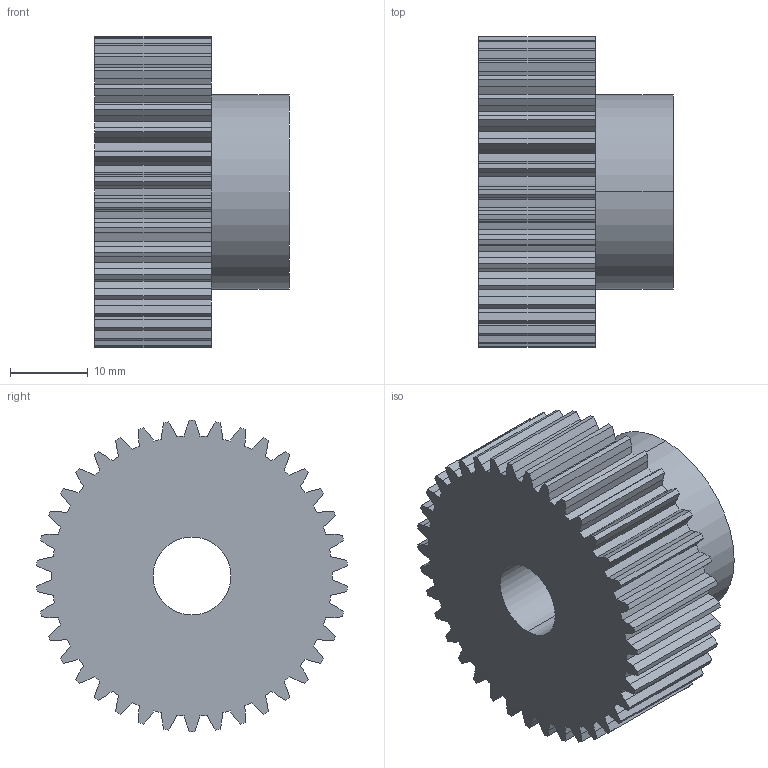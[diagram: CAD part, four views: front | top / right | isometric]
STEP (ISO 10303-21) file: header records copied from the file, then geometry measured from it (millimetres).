
FILE_DESCRIPTION (( 'STEP AP203' ), '1' );
FILE_NAME ('PM 26038.STEP', '2013-09-23T12:44:37', ( '' ), ( '' ), 'SwSTEP 2.0', 'SolidWorks 2010', '' );
FILE_SCHEMA (( 'CONFIG_CONTROL_DESIGN' ));
Length unit declared in the file: millimetre
Products named in the file (1): PM 26038
Bounding box: 25 x 39.91 x 40 mm (x, y, z)
Volume: 19783.6 mm3; surface area: 7034 mm2
Topology: 1 solids, 1 shells, 235 faces, 696 edges, 464 vertices
Faces by surface type: plane 155, cylinder 80
Entity records: 7933 total; most frequent: CARTESIAN_POINT 1402, ORIENTED_EDGE 1392, DIRECTION 1326, EDGE_CURVE 696, VECTOR 534, LINE 534, VERTEX_POINT 464, AXIS2_PLACEMENT_3D 396
